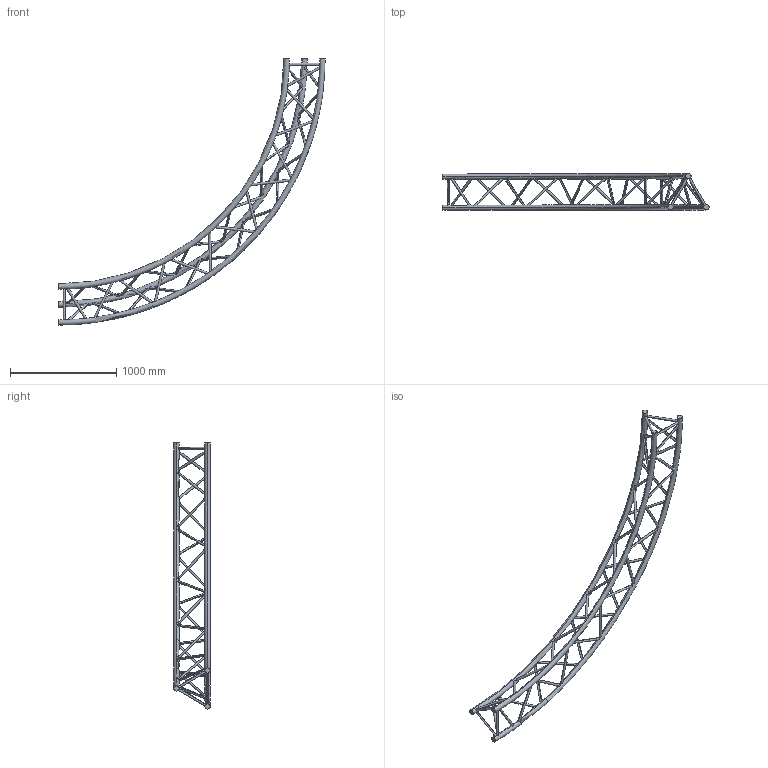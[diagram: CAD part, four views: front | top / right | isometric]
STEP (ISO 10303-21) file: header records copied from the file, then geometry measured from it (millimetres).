
FILE_DESCRIPTION (( 'STEP AP203' ), '1' );
FILE_NAME ('SXC39500PH.STEP', '2009-10-21T11:27:17', ( 'CEDIA' ), ( 'CEDIA INDUSTRIE' ), 'SwSTEP 2.0', 'SolidWorks 2009', '' );
FILE_SCHEMA (( 'CONFIG_CONTROL_DESIGN' ));
Length unit declared in the file: millimetre
Products named in the file (1): SXC39500PH
Bounding box: 2500 x 341.85 x 2500 mm (x, y, z)
Volume: 26310556.5 mm3; surface area: 2680441.8 mm2
Topology: 1 solids, 1 shells, 102 faces, 318 edges, 192 vertices
Faces by surface type: cylinder 90, torus 6, plane 6
Entity records: 12195 total; most frequent: CARTESIAN_POINT 9489, ORIENTED_EDGE 636, DIRECTION 392, EDGE_CURVE 318, VERTEX_POINT 192, B_SPLINE_CURVE_WITH_KNOTS 180, EDGE_LOOP 162, AXIS2_PLACEMENT_3D 151
